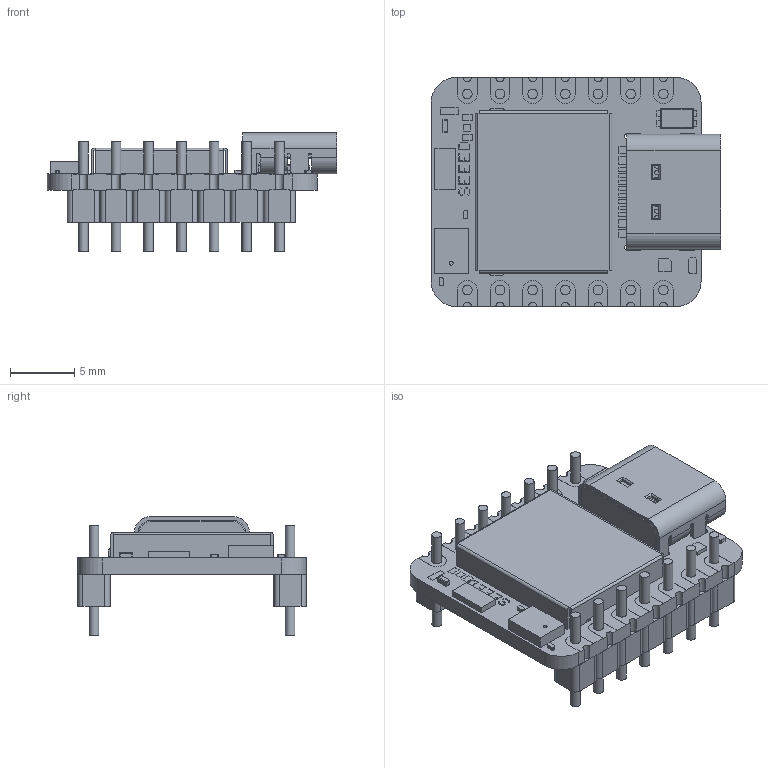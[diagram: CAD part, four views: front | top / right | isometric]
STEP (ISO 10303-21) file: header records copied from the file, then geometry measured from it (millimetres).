
FILE_DESCRIPTION(/* description */ ('STEP AP242 Edition 2','CAx-IF Rec.Pracs.---Representation and Presentation of Product Manufacturing Information (PMI)---4.0---2014-10-13','CAx-IF Rec.Pracs.---3D Tessellated Geometry---0.4---2014-09-14','2;1','CAx-IF Rec.Pracs.---User Defined Attributes---1.5---2016-08-15'),/* implementation_level */ '2;1');
FILE_NAME(/* name */ 'bb_v3 - Xiao Seeed nrf',/* time_stamp */ '2026-05-01T07:59:51Z',/* author */ (''),/* organization */ (''),/* preprocessor_version */ 'ST-DEVELOPER v20',/* originating_system */ 'ONSHAPE BY PTC INC, 1.214',/* authorisation */ ' ');
FILE_SCHEMA (('AP242_MANAGED_MODEL_BASED_3D_ENGINEERING_MIM_LF { 1 0 10303 442 3 1 4 }'));
Length unit declared in the file: metre
Products named in the file (1): Xiao Seeed nrf
Bounding box: 22.48 x 17.78 x 9.22 mm (x, y, z)
Volume: 862.7 mm3; surface area: 2102.1 mm2
Topology: 1 solids, 5 shells, 1060 faces, 2856 edges, 1855 vertices
Faces by surface type: plane 760, cylinder 268, sphere 14, torus 10, cone 6, bspline 2
Full cylindrical faces by diameter (mm): 0.3 x1, 0.5 x2, 0.6 x2, 0.75 x28, 1.5 x12, 1.524 x4
Entity records: 34932 total; most frequent: CARTESIAN_POINT 5865, ORIENTED_EDGE 5564, DIRECTION 5478, EDGE_CURVE 2782, LINE 2168, VECTOR 2168, VERTEX_POINT 1838, AXIS2_PLACEMENT_3D 1655
